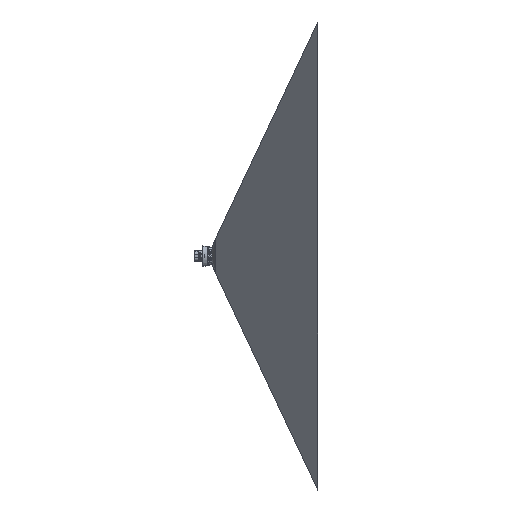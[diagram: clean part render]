
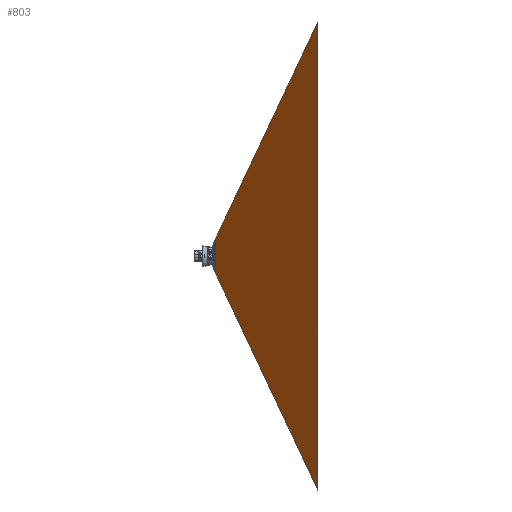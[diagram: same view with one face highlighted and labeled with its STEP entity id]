
A CAD part, front view. The second image highlights one B-rep face of the part: STEP entity #803.
In plain terms, the highlighted free-form (B-spline) face has degree [5, 1] with [12, 2] control points.
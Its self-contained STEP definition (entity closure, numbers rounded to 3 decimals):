
#49=CARTESIAN_POINT('Vertex',(25.,-78.417,34.417)) ;
#139=CARTESIAN_POINT('Control Point',(25.,-78.417,34.417)) ;
#140=CARTESIAN_POINT('Control Point',(224.,-1460.558,456.292)) ;
#141=CARTESIAN_POINT('Vertex',(224.,-1460.558,456.292)) ;
#454=CARTESIAN_POINT('Control Point',(25.,-78.417,-34.417)) ;
#455=CARTESIAN_POINT('Control Point',(224.,-1460.558,-456.292)) ;
#456=CARTESIAN_POINT('Vertex',(25.,-78.417,-34.417)) ;
#458=CARTESIAN_POINT('Vertex',(224.,-1460.558,-456.292)) ;
#601=CARTESIAN_POINT('Control Point',(25.,-78.417,-30.684)) ;
#602=CARTESIAN_POINT('Control Point',(25.,-78.417,-31.436)) ;
#603=CARTESIAN_POINT('Control Point',(25.,-78.417,-32.186)) ;
#604=CARTESIAN_POINT('Control Point',(25.,-78.417,-32.938)) ;
#605=CARTESIAN_POINT('Control Point',(25.,-78.417,-33.678)) ;
#606=CARTESIAN_POINT('Control Point',(25.,-78.417,-34.417)) ;
#607=CARTESIAN_POINT('Vertex',(25.,-78.417,-30.684)) ;
#635=CARTESIAN_POINT('Control Point',(25.,-78.417,30.374)) ;
#636=CARTESIAN_POINT('Control Point',(25.,-78.417,18.097)) ;
#637=CARTESIAN_POINT('Control Point',(25.,-78.417,5.82)) ;
#638=CARTESIAN_POINT('Control Point',(25.,-78.417,-6.166)) ;
#639=CARTESIAN_POINT('Control Point',(25.,-78.417,-18.534)) ;
#640=CARTESIAN_POINT('Control Point',(25.,-78.417,-30.684)) ;
#641=CARTESIAN_POINT('Vertex',(25.,-78.417,30.374)) ;
#728=CARTESIAN_POINT('Control Point',(25.,-78.417,34.417)) ;
#729=CARTESIAN_POINT('Control Point',(444.57,-2992.514,923.895)) ;
#730=CARTESIAN_POINT('Control Point',(25.,-78.417,28.877)) ;
#731=CARTESIAN_POINT('Control Point',(450.029,-3031.353,795.609)) ;
#732=CARTESIAN_POINT('Control Point',(25.,-78.417,23.331)) ;
#733=CARTESIAN_POINT('Control Point',(454.549,-3063.514,665.033)) ;
#734=CARTESIAN_POINT('Control Point',(25.,-78.417,17.87)) ;
#735=CARTESIAN_POINT('Control Point',(458.041,-3088.36,534.121)) ;
#736=CARTESIAN_POINT('Control Point',(25.,-78.417,7.574)) ;
#737=CARTESIAN_POINT('Control Point',(462.96,-3123.363,281.62)) ;
#738=CARTESIAN_POINT('Control Point',(25.,-78.417,-2.507)) ;
#739=CARTESIAN_POINT('Control Point',(464.305,-3132.93,19.941)) ;
#740=CARTESIAN_POINT('Control Point',(25.,-78.417,-7.105)) ;
#741=CARTESIAN_POINT('Control Point',(464.032,-3130.989,-103.695)) ;
#742=CARTESIAN_POINT('Control Point',(25.,-78.417,-15.622)) ;
#743=CARTESIAN_POINT('Control Point',(462.038,-3116.803,-340.434)) ;
#744=CARTESIAN_POINT('Control Point',(25.,-78.417,-23.782)) ;
#745=CARTESIAN_POINT('Control Point',(456.697,-3078.797,-584.201)) ;
#746=CARTESIAN_POINT('Control Point',(25.,-78.417,-27.491)) ;
#747=CARTESIAN_POINT('Control Point',(453.321,-3054.78,-699.465)) ;
#748=CARTESIAN_POINT('Control Point',(25.,-78.417,-30.987)) ;
#749=CARTESIAN_POINT('Control Point',(449.362,-3026.61,-811.275)) ;
#750=CARTESIAN_POINT('Control Point',(25.,-78.417,-34.417)) ;
#751=CARTESIAN_POINT('Control Point',(444.57,-2992.514,-923.895)) ;
#753=CARTESIAN_POINT('Control Point',(25.,-78.417,34.417)) ;
#754=CARTESIAN_POINT('Control Point',(25.,-78.417,33.608)) ;
#755=CARTESIAN_POINT('Control Point',(25.,-78.417,32.799)) ;
#756=CARTESIAN_POINT('Control Point',(25.,-78.417,31.99)) ;
#757=CARTESIAN_POINT('Control Point',(25.,-78.417,31.182)) ;
#758=CARTESIAN_POINT('Control Point',(25.,-78.417,30.374)) ;
#761=CARTESIAN_POINT('Control Point',(224.,-1460.558,-456.292)) ;
#762=CARTESIAN_POINT('Control Point',(224.,-1460.648,-442.224)) ;
#763=CARTESIAN_POINT('Control Point',(224.,-1460.735,-428.242)) ;
#764=CARTESIAN_POINT('Control Point',(224.,-1460.818,-414.322)) ;
#765=CARTESIAN_POINT('Control Point',(224.,-1461.054,-373.095)) ;
#766=CARTESIAN_POINT('Control Point',(224.,-1461.26,-332.147)) ;
#767=CARTESIAN_POINT('Control Point',(224.,-1461.383,-304.996)) ;
#768=CARTESIAN_POINT('Control Point',(224.,-1461.557,-262.38)) ;
#769=CARTESIAN_POINT('Control Point',(224.,-1461.698,-219.856)) ;
#770=CARTESIAN_POINT('Control Point',(224.,-1461.744,-204.456)) ;
#771=CARTESIAN_POINT('Control Point',(224.,-1461.811,-180.236)) ;
#772=CARTESIAN_POINT('Control Point',(224.,-1461.867,-156.177)) ;
#773=CARTESIAN_POINT('Control Point',(224.,-1461.886,-147.404)) ;
#774=CARTESIAN_POINT('Control Point',(224.,-1461.921,-129.886)) ;
#775=CARTESIAN_POINT('Control Point',(224.,-1461.951,-112.414)) ;
#776=CARTESIAN_POINT('Control Point',(224.,-1461.965,-103.685)) ;
#777=CARTESIAN_POINT('Control Point',(224.,-1462.011,-70.282)) ;
#778=CARTESIAN_POINT('Control Point',(224.,-1462.037,-36.887)) ;
#779=CARTESIAN_POINT('Control Point',(224.,-1462.045,-12.154)) ;
#780=CARTESIAN_POINT('Control Point',(224.,-1462.04,28.237)) ;
#781=CARTESIAN_POINT('Control Point',(224.,-1462.006,68.798)) ;
#782=CARTESIAN_POINT('Control Point',(224.,-1461.988,84.458)) ;
#783=CARTESIAN_POINT('Control Point',(224.,-1461.96,104.075)) ;
#784=CARTESIAN_POINT('Control Point',(224.,-1461.926,123.678)) ;
#785=CARTESIAN_POINT('Control Point',(224.,-1461.919,127.622)) ;
#786=CARTESIAN_POINT('Control Point',(224.,-1461.864,156.39)) ;
#787=CARTESIAN_POINT('Control Point',(224.,-1461.795,185.12)) ;
#788=CARTESIAN_POINT('Control Point',(224.,-1461.724,209.943)) ;
#789=CARTESIAN_POINT('Control Point',(224.,-1461.516,273.355)) ;
#790=CARTESIAN_POINT('Control Point',(224.,-1461.235,337.439)) ;
#791=CARTESIAN_POINT('Control Point',(224.,-1461.038,376.711)) ;
#792=CARTESIAN_POINT('Control Point',(224.,-1460.812,416.349)) ;
#793=CARTESIAN_POINT('Control Point',(224.,-1460.558,456.292)) ;
#796=ORIENTED_EDGE('',*,*,#143,.F.) ;
#797=ORIENTED_EDGE('',*,*,#759,.T.) ;
#798=ORIENTED_EDGE('',*,*,#643,.T.) ;
#799=ORIENTED_EDGE('',*,*,#609,.F.) ;
#800=ORIENTED_EDGE('',*,*,#460,.T.) ;
#801=ORIENTED_EDGE('',*,*,#794,.T.) ;
#803=ADVANCED_FACE('Surface.1',(#802),#727,.T.) ;
#138=B_SPLINE_CURVE_WITH_KNOTS('',1,(#139,#140),.UNSPECIFIED.,.F.,.U.,(2,2),(0.,1459.785),.UNSPECIFIED.) ;
#453=B_SPLINE_CURVE_WITH_KNOTS('',1,(#454,#455),.UNSPECIFIED.,.F.,.U.,(2,2),(0.,1459.785),.UNSPECIFIED.) ;
#600=B_SPLINE_CURVE_WITH_KNOTS('',5,(#601,#602,#603,#604,#605,#606),.UNSPECIFIED.,.F.,.U.,(6,6),(0.,3.105),.UNSPECIFIED.) ;
#634=B_SPLINE_CURVE_WITH_KNOTS('',5,(#635,#636,#637,#638,#639,#640),.UNSPECIFIED.,.F.,.U.,(6,6),(0.,50.203),.UNSPECIFIED.) ;
#752=B_SPLINE_CURVE_WITH_KNOTS('',5,(#753,#754,#755,#756,#757,#758),.UNSPECIFIED.,.F.,.U.,(6,6),(0.,69.319),.UNSPECIFIED.) ;
#760=B_SPLINE_CURVE_WITH_KNOTS('',5,(#761,#762,#763,#764,#765,#766,#767,#768,#769,#770,#771,#772,#773,#774,#775,#776,#777,#778,#779,#780,#781,#782,#783,#784,#785,#786,#787,#788,#789,#790,#791,#792,#793),.UNSPECIFIED.,.F.,.U.,(6,3,3,3,3,3,3,3,3,3,6),(0.,121.885,362.197,498.939,577.777,656.615,879.58,1019.492,1054.742,1276.691,1619.994),.UNSPECIFIED.) ;
#727=B_SPLINE_SURFACE_WITH_KNOTS('',5,1,((#728,#729),(#730,#731),(#732,#733),(#734,#735),(#736,#737),(#738,#739),(#740,#741),(#742,#743),(#744,#745),(#746,#747),(#748,#749),(#750,#751)),.UNSPECIFIED.,.F.,.F.,.U.,(6,3,3,6),(2,2),(0.,474.687,913.616,1330.157),(0.,3077.801),.UNSPECIFIED.) ;
#143=EDGE_CURVE('',#50,#142,#138,.T.) ;
#460=EDGE_CURVE('',#457,#459,#453,.T.) ;
#609=EDGE_CURVE('',#457,#608,#600,.F.) ;
#643=EDGE_CURVE('',#642,#608,#634,.T.) ;
#759=EDGE_CURVE('',#50,#642,#752,.T.) ;
#794=EDGE_CURVE('',#459,#142,#760,.T.) ;
#795=EDGE_LOOP('',(#796,#797,#798,#799,#800,#801)) ;
#802=FACE_OUTER_BOUND('',#795,.T.) ;
#50=VERTEX_POINT('',#49) ;
#142=VERTEX_POINT('',#141) ;
#457=VERTEX_POINT('',#456) ;
#459=VERTEX_POINT('',#458) ;
#608=VERTEX_POINT('',#607) ;
#642=VERTEX_POINT('',#641) ;
